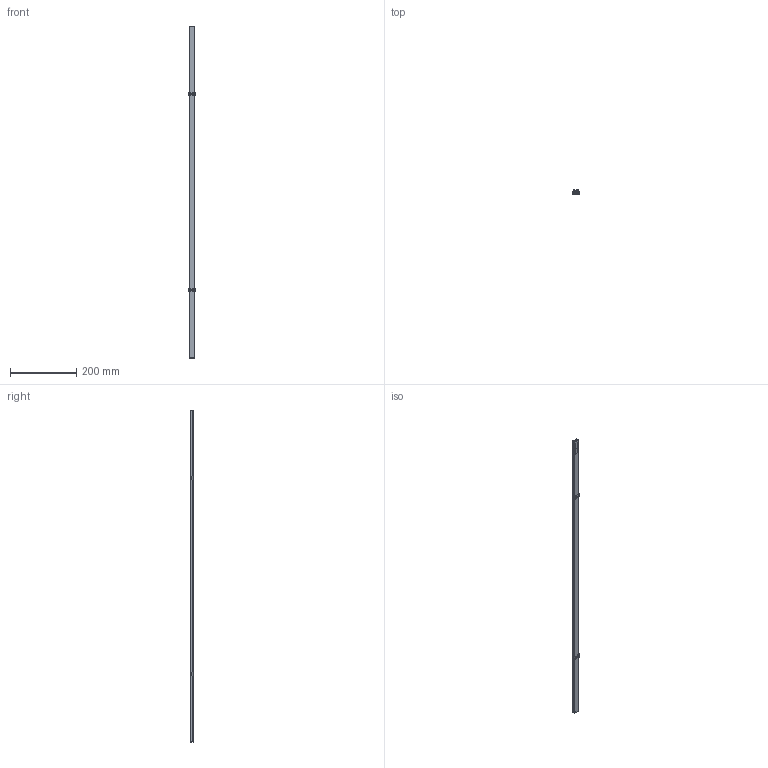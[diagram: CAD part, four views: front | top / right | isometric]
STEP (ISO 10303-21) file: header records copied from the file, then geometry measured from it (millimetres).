
FILE_DESCRIPTION (( 'STEP AP203' ), '1' );
FILE_NAME ('Surface Mounted Profile - With Touch Sensor.STEP', '2025-09-10T13:48:44', ( '' ), ( '' ), 'SwSTEP 2.0', 'SolidWorks 2020', '' );
FILE_SCHEMA (( 'CONFIG_CONTROL_DESIGN' ));
Length unit declared in the file: millimetre
Products named in the file (12): Surface Mounted - Fino Equivalent - End Cap - 18mm_Standard Version - With Hole; Polar - Connector Pins; Polar Connector - Large Version for Universal Sensor Housing; Profile Touch Dimmer_Touch - No Cable; Polar Connector - Upper; Universal Sensor With Housing - 18mm - Assembly_Touch - No Cable; Surface Mounted Profile - With Touch Sensor; Diffuser - 18mm_967mm; Surface Mounted - Fino Equivalent - End Cap - 18mm_Standard Version - Without Hole; Surface Mounted - Fino Equivalent - Mounting Bracket - 18mm_For Render; Universal Sensor Housing - Upper Section - 18mm - V2_Touch; Surface Mounted - Fino Equivalent - 18mm_1 Meter Length
Assembly tree (12 placements, depth 3):
  Surface Mounted Profile - With Touch Sensor
    Surface Mounted - Fino Equivalent - 18mm_1 Meter Length
    Diffuser - 18mm_967mm
    Universal Sensor With Housing - 18mm - Assembly_Touch - No Cable
      Polar Connector - Large Version for Universal Sensor Housing
      Polar - Connector Pins
      Profile Touch Dimmer_Touch - No Cable
      Universal Sensor Housing - Upper Section - 18mm - V2_Touch
      Polar Connector - Upper
    Surface Mounted - Fino Equivalent - End Cap - 18mm_Standard Version - With Hole
    Surface Mounted - Fino Equivalent - End Cap - 18mm_Standard Version - Without Hole
    Surface Mounted - Fino Equivalent - Mounting Bracket - 18mm_For Render  x2
Bounding box: 21.17 x 12 x 1002 mm (x, y, z)
Volume: 53996 mm3; surface area: 109466 mm2
Topology: 13 solids, 13 shells, 1185 faces, 2931 edges, 1720 vertices
Faces by surface type: cylinder 478, plane 432, torus 103, sphere 94, bspline 78
Entity records: 34595 total; most frequent: CARTESIAN_POINT 7130, DIRECTION 5706, ORIENTED_EDGE 5430, EDGE_CURVE 2715, AXIS2_PLACEMENT_3D 2092, VERTEX_POINT 1616, VECTOR 1522, LINE 1522
